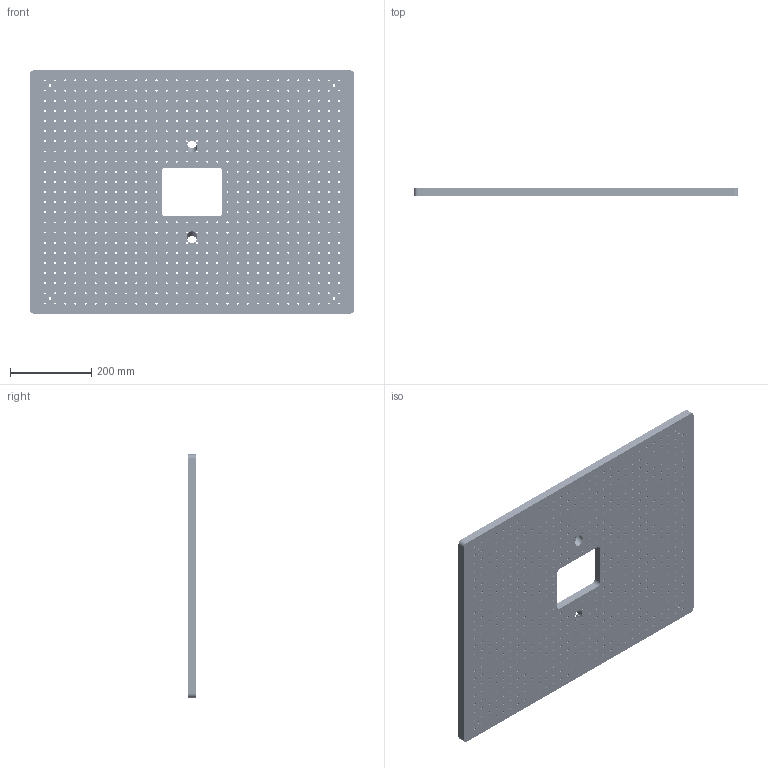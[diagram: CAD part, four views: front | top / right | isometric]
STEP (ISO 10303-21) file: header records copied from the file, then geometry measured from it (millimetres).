
FILE_DESCRIPTION (( 'STEP AP214' ), '1' );
FILE_NAME ('316L_TOP.STEP', '2026-10-22T13:08:52', ( '' ), ( '' ), 'SwSTEP 2.0', 'SolidWorks 2022', '' );
FILE_SCHEMA (( 'AUTOMOTIVE_DESIGN' ));
Length unit declared in the file: millimetre
Products named in the file (1): 316L_TOP
Bounding box: 800 x 20 x 600 mm (x, y, z)
Volume: 8952536.6 mm3; surface area: 1171260.8 mm2
Topology: 1 solids, 1 shells, 1356 faces, 3402 edges, 2048 vertices
Faces by surface type: cylinder 678, cone 664, plane 14
Full cylindrical faces by diameter (mm): 5 x660, 6.6 x4, 11 x4, 25.4 x2
Entity records: 44206 total; most frequent: DIRECTION 6778, CARTESIAN_POINT 5673, ORIENTED_EDGE 4132, EDGE_LOOP 4020, AXIS2_PLACEMENT_3D 3373, EDGE_CURVE 2066, VERTEX_POINT 2042, FACE_OUTER_BOUND 2026
